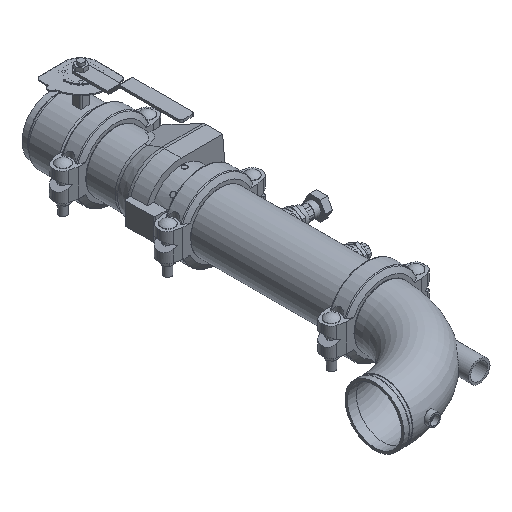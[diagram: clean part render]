
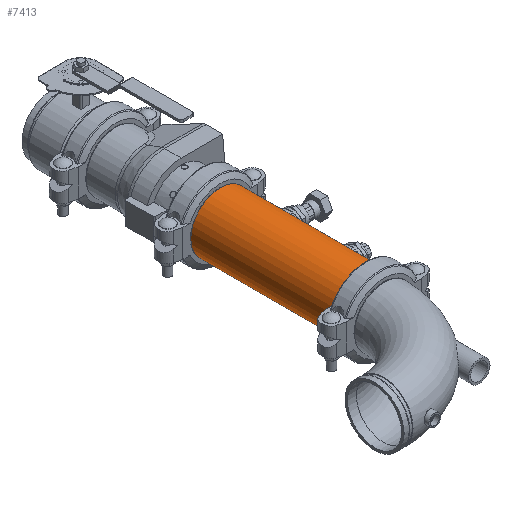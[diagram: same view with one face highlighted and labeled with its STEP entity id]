
A CAD part, isometric view. The second image highlights one B-rep face of the part: STEP entity #7413.
In plain terms, the highlighted cylindrical face has radius 84.138 mm (diameter 168.275 mm), a full revolution.
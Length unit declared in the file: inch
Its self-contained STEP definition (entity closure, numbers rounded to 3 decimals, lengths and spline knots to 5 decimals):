
#178=LINE('',#11214,#733);
#733=VECTOR('',#8909,3.3125);
#1288=CYLINDRICAL_SURFACE('',#8011,3.3125);
#1530=FACE_OUTER_BOUND('',#1949,.T.);
#1949=EDGE_LOOP('',(#4650,#4651,#4652,#4653,#4654,#4655));
#2457=CIRCLE('',#8009,3.3125);
#2458=CIRCLE('',#8010,3.3125);
#2459=CIRCLE('',#8012,3.3125);
#2460=CIRCLE('',#8013,3.3125);
#2877=VERTEX_POINT('',#11205);
#2878=VERTEX_POINT('',#11206);
#2879=VERTEX_POINT('',#11210);
#2880=VERTEX_POINT('',#11211);
#3588=EDGE_CURVE('',#2877,#2878,#2457,.T.);
#3589=EDGE_CURVE('',#2878,#2877,#2458,.T.);
#3590=EDGE_CURVE('',#2879,#2880,#2459,.T.);
#3591=EDGE_CURVE('',#2880,#2879,#2460,.T.);
#3592=EDGE_CURVE('',#2880,#2878,#178,.T.);
#4650=ORIENTED_EDGE('',*,*,#3590,.F.);
#4651=ORIENTED_EDGE('',*,*,#3591,.F.);
#4652=ORIENTED_EDGE('',*,*,#3592,.T.);
#4653=ORIENTED_EDGE('',*,*,#3589,.T.);
#4654=ORIENTED_EDGE('',*,*,#3588,.T.);
#4655=ORIENTED_EDGE('',*,*,#3592,.F.);
#7413=ADVANCED_FACE('',(#1530),#1288,.T.);
#8009=AXIS2_PLACEMENT_3D('',#11207,#8899,#8900);
#8010=AXIS2_PLACEMENT_3D('',#11208,#8901,#8902);
#8011=AXIS2_PLACEMENT_3D('',#11209,#8903,#8904);
#8012=AXIS2_PLACEMENT_3D('',#11212,#8905,#8906);
#8013=AXIS2_PLACEMENT_3D('',#11213,#8907,#8908);
#8899=DIRECTION('center_axis',(1.,0.,0.));
#8900=DIRECTION('ref_axis',(0.,0.,-1.));
#8901=DIRECTION('center_axis',(1.,0.,0.));
#8902=DIRECTION('ref_axis',(0.,0.,-1.));
#8903=DIRECTION('center_axis',(1.,0.,0.));
#8904=DIRECTION('ref_axis',(0.,1.,0.));
#8905=DIRECTION('center_axis',(1.,0.,0.));
#8906=DIRECTION('ref_axis',(0.,0.,-1.));
#8907=DIRECTION('center_axis',(1.,0.,0.));
#8908=DIRECTION('ref_axis',(0.,0.,-1.));
#8909=DIRECTION('',(-1.,0.,0.));
#11205=CARTESIAN_POINT('',(-8.091,3.3125,0.));
#11206=CARTESIAN_POINT('',(-8.091,-3.3125,0.));
#11207=CARTESIAN_POINT('Origin',(-8.091,0.,0.));
#11208=CARTESIAN_POINT('Origin',(-8.091,0.,0.));
#11209=CARTESIAN_POINT('Origin',(0.,0.,0.));
#11210=CARTESIAN_POINT('',(8.091,3.3125,0.));
#11211=CARTESIAN_POINT('',(8.091,-3.3125,0.));
#11212=CARTESIAN_POINT('Origin',(8.091,0.,0.));
#11213=CARTESIAN_POINT('Origin',(8.091,0.,0.));
#11214=CARTESIAN_POINT('',(0.,-3.3125,0.));
